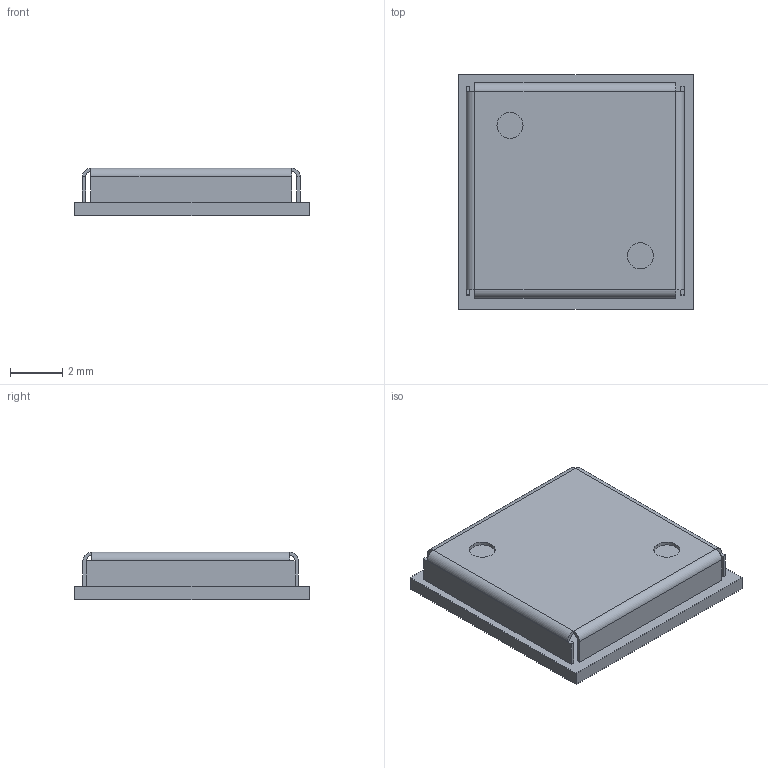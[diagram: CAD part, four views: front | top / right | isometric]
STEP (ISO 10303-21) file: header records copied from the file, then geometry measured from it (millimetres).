
FILE_DESCRIPTION (( 'STEP AP203' ), '1' );
FILE_NAME ('AN-1-1368-A-3D_20221124-4-1.STEP', '2022-11-24T02:26:35', ( '' ), ( '' ), 'SwSTEP 2.0', 'SolidWorks 2016', '' );
FILE_SCHEMA (( 'CONFIG_CONTROL_DESIGN' ));
Length unit declared in the file: millimetre
Products named in the file (5): OpenCASCADESTEPtranslator6_3; AN-1-1368-A-3D_20221124-4-1; OpenCASCADESTEPtranslator6_4; OpenCASCADESTEPtranslator6_2; OpenCASCADESTEPtranslator6
Assembly tree (4 placements, depth 2):
  AN-1-1368-A-3D_20221124-4-1
    OpenCASCADESTEPtranslator6
    OpenCASCADESTEPtranslator6_2
    OpenCASCADESTEPtranslator6_3
    OpenCASCADESTEPtranslator6_4
Bounding box: 9 x 9 x 1.82 mm (x, y, z)
Volume: 74.1 mm3; surface area: 456.5 mm2
Topology: 4 solids, 4 shells, 60 faces, 132 edges, 80 vertices
Faces by surface type: plane 48, cylinder 12
Entity records: 2139 total; most frequent: DIRECTION 290, CARTESIAN_POINT 279, ORIENTED_EDGE 264, EDGE_CURVE 132, VECTOR 108, LINE 108, AXIS2_PLACEMENT_3D 91, VERTEX_POINT 80
